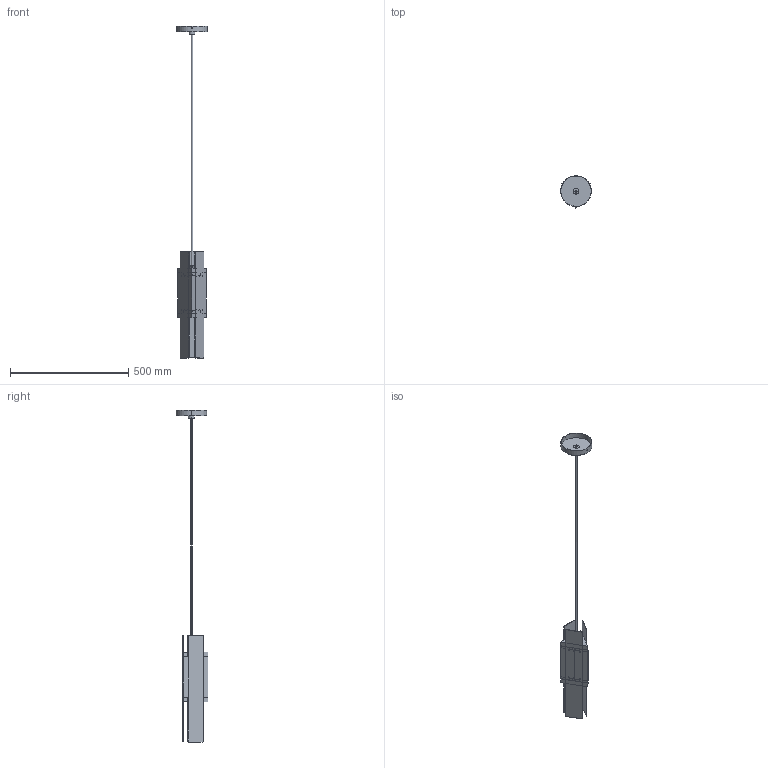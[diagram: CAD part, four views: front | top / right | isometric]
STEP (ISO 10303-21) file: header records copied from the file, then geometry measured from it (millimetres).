
FILE_DESCRIPTION(/* description */ (''),/* implementation_level */ '2;1');
FILE_NAME(/* name */ '5SQ47D~D',/* time_stamp */ '2021-11-16T16:41:39+01:00',/* author */ (''),/* organization */ (''),/* preprocessor_version */ 'ST-DEVELOPER v15',/* originating_system */ '',/* authorisation */ '');
FILE_SCHEMA (('AUTOMOTIVE_DESIGN'));
Length unit declared in the file: millimetre
Products named in the file (1): Document
Bounding box: 130 x 135.05 x 1404.01 mm (x, y, z)
Volume: 487628.1 mm3; surface area: 441609.9 mm2
Topology: 8 solids, 11 shells, 128 faces, 318 edges, 208 vertices
Faces by surface type: bspline 128
Entity records: 10029 total; most frequent: CARTESIAN_POINT 6197, ORIENTED_EDGE 620, PCURVE 620, DEFINITIONAL_REPRESENTATION 620, B_SPLINE_CURVE_WITH_KNOTS 508, SURFACE_CURVE 318, EDGE_CURVE 318, VERTEX_POINT 208
